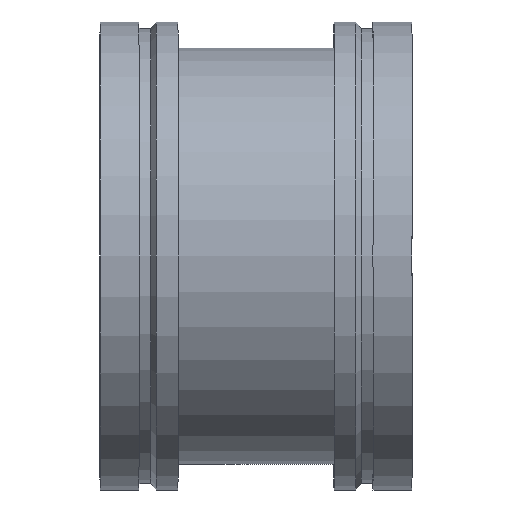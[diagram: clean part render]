
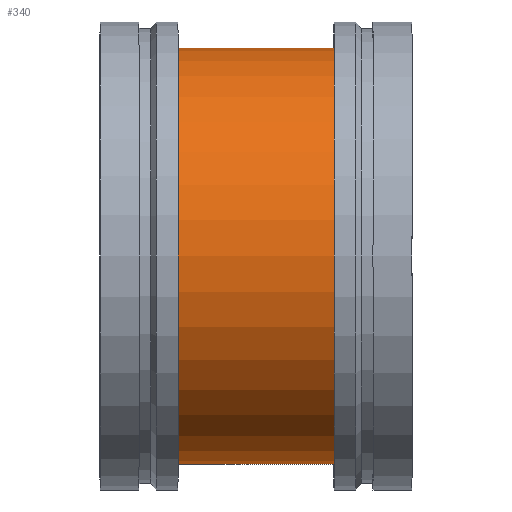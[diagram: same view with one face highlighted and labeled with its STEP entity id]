
A CAD part, front view. The second image highlights one B-rep face of the part: STEP entity #340.
In plain terms, the highlighted cylindrical face has radius 203.2 mm (diameter 406.4 mm), a full revolution.
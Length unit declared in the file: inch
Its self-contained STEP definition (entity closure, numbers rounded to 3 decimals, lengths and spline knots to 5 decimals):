
#51=LINE('',#613,#61);
#61=VECTOR('',#488,8.);
#70=CYLINDRICAL_SURFACE('',#392,8.);
#88=FACE_OUTER_BOUND('',#107,.T.);
#107=EDGE_LOOP('',(#261,#262,#263,#264,#265,#266));
#133=CIRCLE('',#390,8.);
#134=CIRCLE('',#391,8.);
#135=CIRCLE('',#393,8.);
#136=CIRCLE('',#394,8.);
#165=VERTEX_POINT('',#604);
#166=VERTEX_POINT('',#605);
#167=VERTEX_POINT('',#609);
#168=VERTEX_POINT('',#610);
#201=EDGE_CURVE('',#165,#166,#133,.T.);
#202=EDGE_CURVE('',#166,#165,#134,.T.);
#203=EDGE_CURVE('',#167,#168,#135,.T.);
#204=EDGE_CURVE('',#168,#167,#136,.T.);
#205=EDGE_CURVE('',#168,#166,#51,.T.);
#261=ORIENTED_EDGE('',*,*,#203,.F.);
#262=ORIENTED_EDGE('',*,*,#204,.F.);
#263=ORIENTED_EDGE('',*,*,#205,.T.);
#264=ORIENTED_EDGE('',*,*,#202,.T.);
#265=ORIENTED_EDGE('',*,*,#201,.T.);
#266=ORIENTED_EDGE('',*,*,#205,.F.);
#340=ADVANCED_FACE('',(#88),#70,.T.);
#390=AXIS2_PLACEMENT_3D('',#606,#478,#479);
#391=AXIS2_PLACEMENT_3D('',#607,#480,#481);
#392=AXIS2_PLACEMENT_3D('',#608,#482,#483);
#393=AXIS2_PLACEMENT_3D('',#611,#484,#485);
#394=AXIS2_PLACEMENT_3D('',#612,#486,#487);
#478=DIRECTION('center_axis',(1.,0.,0.));
#479=DIRECTION('ref_axis',(0.,0.,-1.));
#480=DIRECTION('center_axis',(1.,0.,0.));
#481=DIRECTION('ref_axis',(0.,0.,-1.));
#482=DIRECTION('center_axis',(1.,0.,0.));
#483=DIRECTION('ref_axis',(0.,1.,0.));
#484=DIRECTION('center_axis',(1.,0.,0.));
#485=DIRECTION('ref_axis',(0.,0.,-1.));
#486=DIRECTION('center_axis',(1.,0.,0.));
#487=DIRECTION('ref_axis',(0.,0.,-1.));
#488=DIRECTION('',(-1.,0.,0.));
#604=CARTESIAN_POINT('',(3.,8.,0.));
#605=CARTESIAN_POINT('',(3.,-8.,0.));
#606=CARTESIAN_POINT('Origin',(3.,0.,0.));
#607=CARTESIAN_POINT('Origin',(3.,0.,0.));
#608=CARTESIAN_POINT('Origin',(6.,0.,0.));
#609=CARTESIAN_POINT('',(9.,8.,0.));
#610=CARTESIAN_POINT('',(9.,-8.,0.));
#611=CARTESIAN_POINT('Origin',(9.,0.,0.));
#612=CARTESIAN_POINT('Origin',(9.,0.,0.));
#613=CARTESIAN_POINT('',(6.,-8.,0.));
